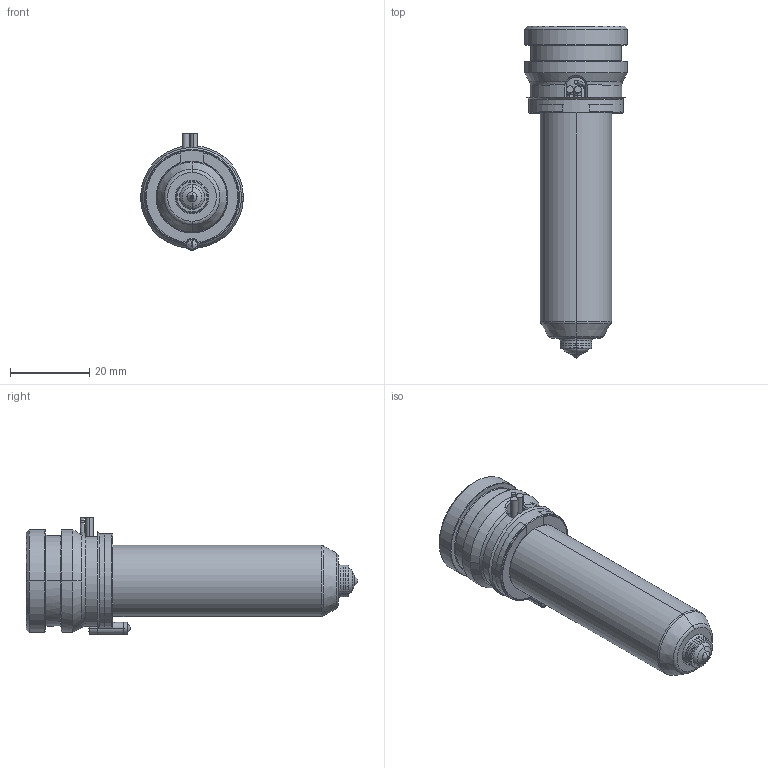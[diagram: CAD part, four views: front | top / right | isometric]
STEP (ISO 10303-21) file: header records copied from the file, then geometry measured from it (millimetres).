
FILE_DESCRIPTION((''),'2;1');
FILE_NAME('TH18066-A-1-PK-JG','2023-12-14T',('umhib'),('Thermoplay S.p.A.'),'PRO/ENGINEER BY PARAMETRIC TECHNOLOGY CORPORATION, 2017170','PRO/ENGINEER BY PARAMETRIC TECHNOLOGY CORPORATION, 2017170','');
FILE_SCHEMA(('CONFIG_CONTROL_DESIGN'));
Length unit declared in the file: millimetre
Products named in the file (1): TH18066-A-1-PK-JG
Bounding box: 26 x 84 x 29.5 mm (x, y, z)
Volume: 18676.3 mm3; surface area: 13579.6 mm2
Topology: 1 solids, 2 shells, 396 faces, 1032 edges, 641 vertices
Faces by surface type: cylinder 151, plane 85, cone 66, torus 56, bspline 24, sphere 12, extrusion 2
Entity records: 18009 total; most frequent: CARTESIAN_POINT 6097, ORIENTED_EDGE 2040, DIRECTION 2023, EDGE_CURVE 1022, AXIS2_PLACEMENT_3D 812, VERTEX_POINT 641, CIRCLE 441, EDGE_LOOP 416
